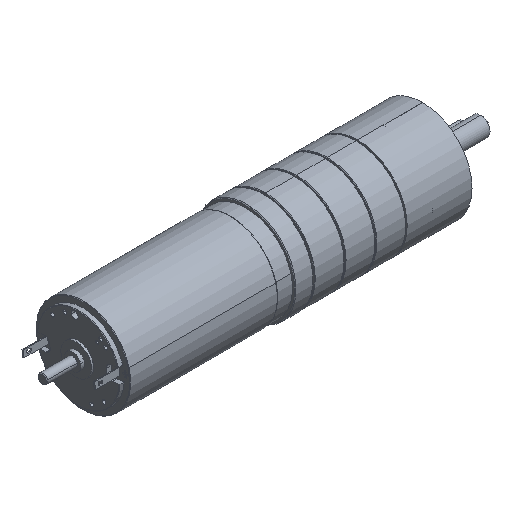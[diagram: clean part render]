
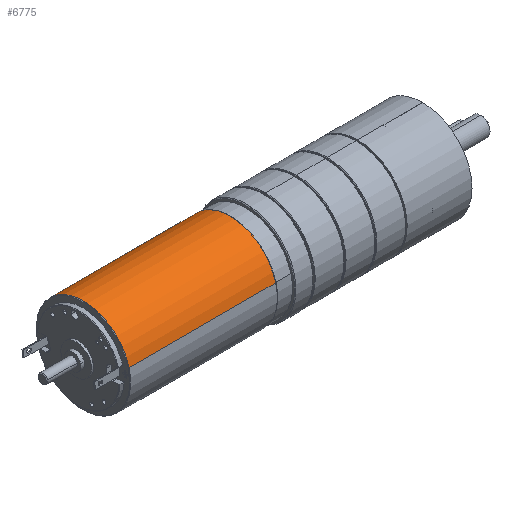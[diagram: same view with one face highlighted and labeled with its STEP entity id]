
A CAD part, isometric view. The second image highlights one B-rep face of the part: STEP entity #6775.
In plain terms, the highlighted cylindrical face has radius 20 mm (diameter 40 mm), a partial arc.
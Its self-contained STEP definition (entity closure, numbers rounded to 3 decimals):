
#555 = DIRECTION ( 'NONE',  ( -1., 0., 0. ) ) ;
#996 = DIRECTION ( 'NONE',  ( 0., 0., 1. ) ) ;
#1997 = VERTEX_POINT ( 'NONE', #13283 ) ;
#2528 = CARTESIAN_POINT ( 'NONE',  ( 26.8, 0., 20. ) ) ;
#3078 = EDGE_LOOP ( 'NONE', ( #25332, #11257, #7962, #19724 ) ) ;
#3257 = EDGE_CURVE ( 'NONE', #4361, #5982, #3599, .T. ) ;
#3599 = CIRCLE ( 'NONE', #10573, 20. ) ;
#4361 = VERTEX_POINT ( 'NONE', #20896 ) ;
#4615 = LINE ( 'NONE', #14099, #21877 ) ;
#4791 = EDGE_CURVE ( 'NONE', #1997, #5982, #4615, .T. ) ;
#5258 = AXIS2_PLACEMENT_3D ( 'NONE', #27978, #14520, #996 ) ;
#5945 = AXIS2_PLACEMENT_3D ( 'NONE', #19800, #10649, #28801 ) ;
#5982 = VERTEX_POINT ( 'NONE', #2528 ) ;
#6775 = ADVANCED_FACE ( 'NONE', ( #6939 ), #22077, .T. ) ;
#6939 = FACE_OUTER_BOUND ( 'NONE', #3078, .T. ) ;
#6975 = CARTESIAN_POINT ( 'NONE',  ( 26.8, 0., 0. ) ) ;
#7700 = CIRCLE ( 'NONE', #5258, 20. ) ;
#7962 = ORIENTED_EDGE ( 'NONE', *, *, #4791, .T. ) ;
#9245 = DIRECTION ( 'NONE',  ( 0., 0., 1. ) ) ;
#9547 = EDGE_CURVE ( 'NONE', #22524, #1997, #7700, .T. ) ;
#10573 = AXIS2_PLACEMENT_3D ( 'NONE', #6975, #22719, #9245 ) ;
#10645 = CARTESIAN_POINT ( 'NONE',  ( 0., 0., -20. ) ) ;
#10649 = DIRECTION ( 'NONE',  ( -1., 0., 0. ) ) ;
#11257 = ORIENTED_EDGE ( 'NONE', *, *, #9547, .T. ) ;
#13283 = CARTESIAN_POINT ( 'NONE',  ( 89.1, 0., 20. ) ) ;
#13327 = LINE ( 'NONE', #10645, #24553 ) ;
#14099 = CARTESIAN_POINT ( 'NONE',  ( 0., 0., 20. ) ) ;
#14520 = DIRECTION ( 'NONE',  ( -1., 0., 0. ) ) ;
#15064 = DIRECTION ( 'NONE',  ( -1., 0., 0. ) ) ;
#16985 = CARTESIAN_POINT ( 'NONE',  ( 89.1, 0., -20. ) ) ;
#19724 = ORIENTED_EDGE ( 'NONE', *, *, #3257, .F. ) ;
#19800 = CARTESIAN_POINT ( 'NONE',  ( 0., 0., 0. ) ) ;
#20896 = CARTESIAN_POINT ( 'NONE',  ( 26.8, 0., -20. ) ) ;
#21877 = VECTOR ( 'NONE', #555, 1000. ) ;
#22077 = CYLINDRICAL_SURFACE ( 'NONE', #5945, 20. ) ;
#22524 = VERTEX_POINT ( 'NONE', #16985 ) ;
#22719 = DIRECTION ( 'NONE',  ( -1., 0., 0. ) ) ;
#24553 = VECTOR ( 'NONE', #15064, 1000. ) ;
#25153 = EDGE_CURVE ( 'NONE', #22524, #4361, #13327, .T. ) ;
#25332 = ORIENTED_EDGE ( 'NONE', *, *, #25153, .F. ) ;
#27978 = CARTESIAN_POINT ( 'NONE',  ( 89.1, 0., 0. ) ) ;
#28801 = DIRECTION ( 'NONE',  ( 0., 0., 1. ) ) ;
